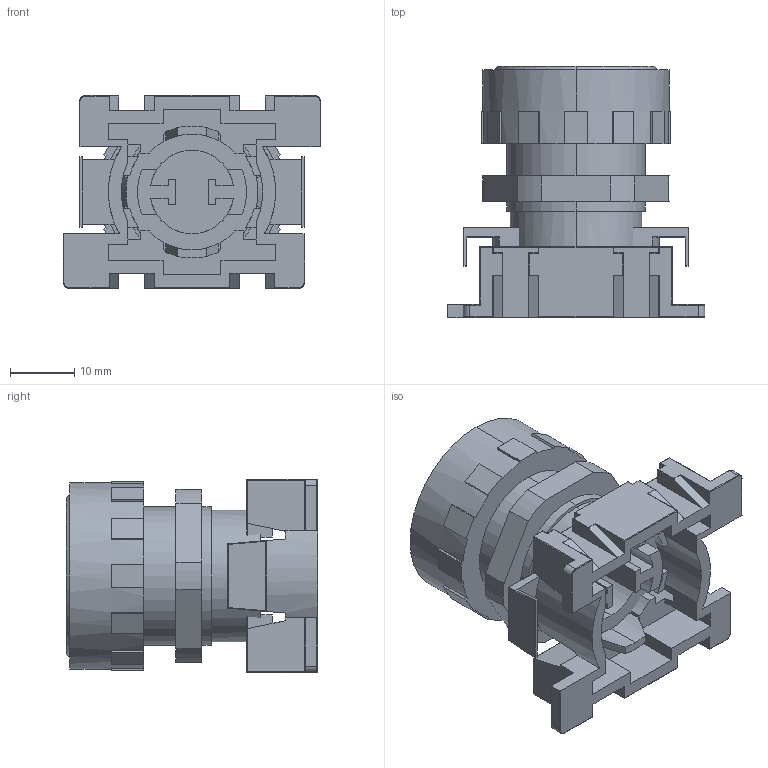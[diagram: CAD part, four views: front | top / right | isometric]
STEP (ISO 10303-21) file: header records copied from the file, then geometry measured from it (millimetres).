
FILE_DESCRIPTION (( 'STEP AP214' ), '1' );
FILE_NAME ('04V0100001A.STEP', '2015-05-14T07:06:32', ( '' ), ( '' ), 'SwSTEP 2.0', 'SolidWorks 2013', '' );
FILE_SCHEMA (( 'AUTOMOTIVE_DESIGN' ));
Length unit declared in the file: millimetre
Products named in the file (1): 04V0100001A
Bounding box: 40 x 39 x 30 mm (x, y, z)
Volume: 17773.4 mm3; surface area: 10421.4 mm2
Topology: 3 solids, 3 shells, 421 faces, 1128 edges, 702 vertices
Faces by surface type: plane 239, cylinder 146, bspline 31, cone 5
Entity records: 17983 total; most frequent: CARTESIAN_POINT 3236, ORIENTED_EDGE 2224, DIRECTION 1980, EDGE_CURVE 1112, VECTOR 760, LINE 760, VERTEX_POINT 702, AXIS2_PLACEMENT_3D 610
